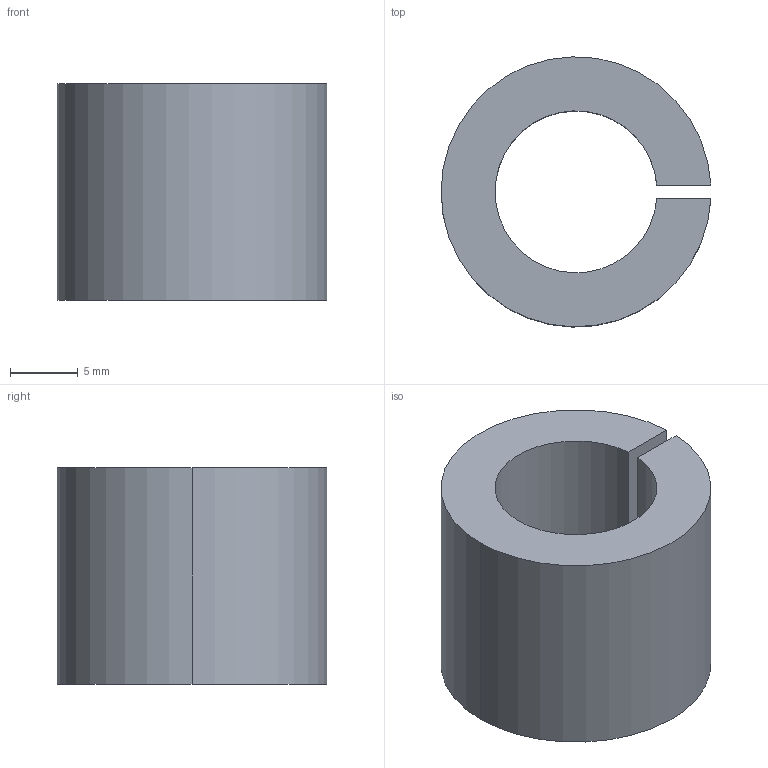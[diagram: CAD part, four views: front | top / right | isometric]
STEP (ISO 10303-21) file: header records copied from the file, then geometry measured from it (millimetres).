
FILE_DESCRIPTION (( 'STEP AP214' ), '1' );
FILE_NAME ('SBND-2012.STEP', '2019-11-11T05:56:31', ( '微软用户' ), ( '微软中国' ), 'SwSTEP 2.0', 'SolidWorks 2016', '' );
FILE_SCHEMA (( 'AUTOMOTIVE_DESIGN' ));
Length unit declared in the file: millimetre
Products named in the file (1): SBND-2012
Bounding box: 19.99 x 19.99 x 16 mm (x, y, z)
Volume: 3152.9 mm3; surface area: 2098.9 mm2
Topology: 1 solids, 1 shells, 8 faces, 18 edges, 12 vertices
Faces by surface type: cylinder 4, plane 4
Entity records: 264 total; most frequent: DIRECTION 44, CARTESIAN_POINT 39, ORIENTED_EDGE 36, EDGE_CURVE 18, AXIS2_PLACEMENT_3D 17, VERTEX_POINT 12, VECTOR 10, LINE 10
